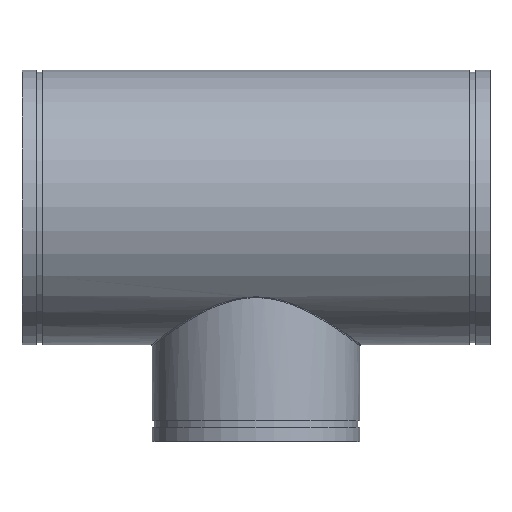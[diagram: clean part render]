
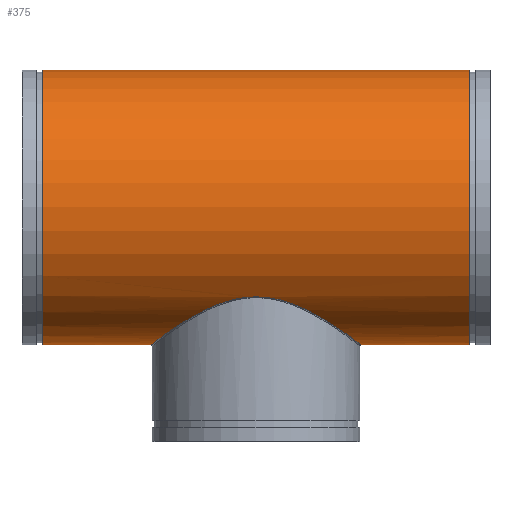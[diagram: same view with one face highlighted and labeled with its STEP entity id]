
A CAD part, top view. The second image highlights one B-rep face of the part: STEP entity #375.
In plain terms, the highlighted cylindrical face has radius 327.66 mm (diameter 655.32 mm), a full revolution.
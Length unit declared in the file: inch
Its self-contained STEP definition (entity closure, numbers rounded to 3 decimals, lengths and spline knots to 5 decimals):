
#54=FACE_BOUND('',#119,.T.);
#65=LINE('',#987,#76);
#76=VECTOR('',#483,12.9);
#87=CYLINDRICAL_SURFACE('',#415,12.9);
#98=FACE_OUTER_BOUND('',#118,.T.);
#118=EDGE_LOOP('',(#266,#267,#268,#269));
#119=EDGE_LOOP('',(#270));
#150=B_SPLINE_CURVE_WITH_KNOTS('',3,(#931,#932,#933,#934,#935,#936,#937,
#938,#939,#940,#941,#942,#943,#944,#945,#946,#947,#948,#949,#950,#951,#952,
#953,#954,#955,#956,#957,#958,#959,#960,#961,#962,#963,#964,#965,#966,#967,
#968,#969,#970,#971,#972,#973,#974,#975,#976,#977,#978,#979,#980,#981,#982),
 .UNSPECIFIED.,.T.,.F.,(4,1,1,1,1,1,1,1,1,1,1,1,1,1,1,1,1,1,1,1,1,1,1,1,
1,1,1,1,1,1,1,1,1,1,1,1,1,1,1,1,1,1,1,1,1,1,1,1,1,4),(-158.17417,
-156.05577,-155.34963,-152.52509,-146.87602,
-142.63921,-141.22694,-135.57786,-129.92878,
-127.81038,-124.27971,-121.45517,-120.0429,
-119.5133,-119.33676,-118.63063,-112.98155,
-110.15701,-109.2155,-105.44945,-97.91734,
-95.09281,-94.15129,-90.38524,-86.61919,
-83.79465,-82.85314,-79.08709,-75.32103,-74.37952,
-71.55498,-67.78893,-64.02288,-60.25683,-52.72472,
-49.90019,-48.95867,-45.19262,-41.42657,
-38.60203,-37.66052,-33.89447,-30.12841,-26.36236,
-22.59631,-16.94723,-11.29816,-5.64908,
-2.82454,0.),.UNSPECIFIED.);
#154=CIRCLE('',#416,12.9);
#155=CIRCLE('',#417,12.9);
#182=VERTEX_POINT('',#871);
#185=VERTEX_POINT('',#984);
#186=VERTEX_POINT('',#986);
#219=EDGE_CURVE('',#182,#182,#150,.T.);
#220=EDGE_CURVE('',#185,#185,#154,.T.);
#221=EDGE_CURVE('',#185,#186,#65,.T.);
#222=EDGE_CURVE('',#186,#186,#155,.T.);
#266=ORIENTED_EDGE('',*,*,#220,.T.);
#267=ORIENTED_EDGE('',*,*,#221,.T.);
#268=ORIENTED_EDGE('',*,*,#222,.T.);
#269=ORIENTED_EDGE('',*,*,#221,.F.);
#270=ORIENTED_EDGE('',*,*,#219,.F.);
#375=ADVANCED_FACE('',(#98,#54),#87,.T.);
#415=AXIS2_PLACEMENT_3D('',#983,#479,#480);
#416=AXIS2_PLACEMENT_3D('',#985,#481,#482);
#417=AXIS2_PLACEMENT_3D('',#988,#484,#485);
#479=DIRECTION('center_axis',(-1.,0.,0.));
#480=DIRECTION('ref_axis',(0.,-1.,0.));
#481=DIRECTION('center_axis',(1.,0.,0.));
#482=DIRECTION('ref_axis',(0.,-1.,0.));
#483=DIRECTION('',(1.,0.,0.));
#484=DIRECTION('center_axis',(-1.,0.,0.));
#485=DIRECTION('ref_axis',(0.,-1.,0.));
#871=CARTESIAN_POINT('',(0.,-8.41172,-9.78023));
#931=CARTESIAN_POINT('Ctrl Pts',(0.,-8.41172,
-9.78023));
#932=CARTESIAN_POINT('Ctrl Pts',(0.29105,-8.41172,-9.78023));
#933=CARTESIAN_POINT('Ctrl Pts',(0.67918,-8.43177,-9.7631));
#934=CARTESIAN_POINT('Ctrl Pts',(1.44578,-8.52165,-9.68481));
#935=CARTESIAN_POINT('Ctrl Pts',(2.66851,-8.76727,-9.46831));
#936=CARTESIAN_POINT('Ctrl Pts',(4.22466,-9.35654,-8.9056));
#937=CARTESIAN_POINT('Ctrl Pts',(5.44465,-9.98293,-8.18365));
#938=CARTESIAN_POINT('Ctrl Pts',(6.57268,-10.62395,-7.34278));
#939=CARTESIAN_POINT('Ctrl Pts',(7.70926,-11.34617,-6.23381));
#940=CARTESIAN_POINT('Ctrl Pts',(8.654,-12.00612,-4.79688));
#941=CARTESIAN_POINT('Ctrl Pts',(9.26318,-12.44576,-3.4506));
#942=CARTESIAN_POINT('Ctrl Pts',(9.60859,-12.70067,-2.37525));
#943=CARTESIAN_POINT('Ctrl Pts',(9.79516,-12.8401,-1.34096));
#944=CARTESIAN_POINT('Ctrl Pts',(9.85284,-12.88337,-0.69598));
#945=CARTESIAN_POINT('Ctrl Pts',(9.86679,-12.89384,-0.40819));
#946=CARTESIAN_POINT('Ctrl Pts',(9.87318,-12.89862,-0.21621));
#947=CARTESIAN_POINT('Ctrl Pts',(9.88685,-12.90908,0.67286));
#948=CARTESIAN_POINT('Ctrl Pts',(9.73587,-12.79484,1.92076));
#949=CARTESIAN_POINT('Ctrl Pts',(9.36899,-12.52391,3.12232));
#950=CARTESIAN_POINT('Ctrl Pts',(9.00855,-12.26123,4.04648));
#951=CARTESIAN_POINT('Ctrl Pts',(8.28854,-11.74577,5.46808));
#952=CARTESIAN_POINT('Ctrl Pts',(7.14791,-10.9738,6.84449));
#953=CARTESIAN_POINT('Ctrl Pts',(6.06024,-10.3296,7.73337));
#954=CARTESIAN_POINT('Ctrl Pts',(5.2924,-9.9046,8.27429));
#955=CARTESIAN_POINT('Ctrl Pts',(4.37132,-9.438,8.80804));
#956=CARTESIAN_POINT('Ctrl Pts',(3.13286,-8.94056,9.30488));
#957=CARTESIAN_POINT('Ctrl Pts',(2.16366,-8.6696,9.55324));
#958=CARTESIAN_POINT('Ctrl Pts',(1.16388,-8.47162,9.72934));
#959=CARTESIAN_POINT('Ctrl Pts',(0.00003,-8.36357,
9.82104));
#960=CARTESIAN_POINT('Ctrl Pts',(-1.16392,-8.47166,9.72932));
#961=CARTESIAN_POINT('Ctrl Pts',(-2.16368,-8.66959,9.55326));
#962=CARTESIAN_POINT('Ctrl Pts',(-3.13291,-8.94052,9.30483));
#963=CARTESIAN_POINT('Ctrl Pts',(-4.37101,-9.43799,8.80824));
#964=CARTESIAN_POINT('Ctrl Pts',(-5.59996,-10.06014,8.096));
#965=CARTESIAN_POINT('Ctrl Pts',(-7.07203,-10.92225,6.93618));
#966=CARTESIAN_POINT('Ctrl Pts',(-8.21232,-11.69435,5.55995));
#967=CARTESIAN_POINT('Ctrl Pts',(-8.89786,-12.18186,4.2652));
#968=CARTESIAN_POINT('Ctrl Pts',(-9.29104,-12.46644,3.36096));
#969=CARTESIAN_POINT('Ctrl Pts',(-9.64203,-12.72523,2.28732));
#970=CARTESIAN_POINT('Ctrl Pts',(-9.86478,-12.89236,0.89883));
#971=CARTESIAN_POINT('Ctrl Pts',(-9.88514,-12.90759,-0.12864));
#972=CARTESIAN_POINT('Ctrl Pts',(-9.8243,-12.86198,-1.15111));
#973=CARTESIAN_POINT('Ctrl Pts',(-9.64203,-12.72529,-2.28712));
#974=CARTESIAN_POINT('Ctrl Pts',(-9.17423,-12.38017,-3.71871));
#975=CARTESIAN_POINT('Ctrl Pts',(-8.51065,-11.90438,-5.03027));
#976=CARTESIAN_POINT('Ctrl Pts',(-7.54114,-11.2391,-6.39785));
#977=CARTESIAN_POINT('Ctrl Pts',(-6.19325,-10.38339,-7.7126));
#978=CARTESIAN_POINT('Ctrl Pts',(-4.39741,-9.42217,-8.84301));
#979=CARTESIAN_POINT('Ctrl Pts',(-2.66845,-8.76717,-9.46838));
#980=CARTESIAN_POINT('Ctrl Pts',(-1.16376,-8.46504,-9.7347));
#981=CARTESIAN_POINT('Ctrl Pts',(-0.38807,-8.41172,-9.78023));
#982=CARTESIAN_POINT('Ctrl Pts',(0.,-8.41172,
-9.78023));
#983=CARTESIAN_POINT('Origin',(22.,0.,0.));
#984=CARTESIAN_POINT('',(-20.035,12.9,0.));
#985=CARTESIAN_POINT('Origin',(-20.035,0.,0.));
#986=CARTESIAN_POINT('',(20.035,12.9,0.));
#987=CARTESIAN_POINT('',(22.,12.9,0.));
#988=CARTESIAN_POINT('Origin',(20.035,0.,0.));
